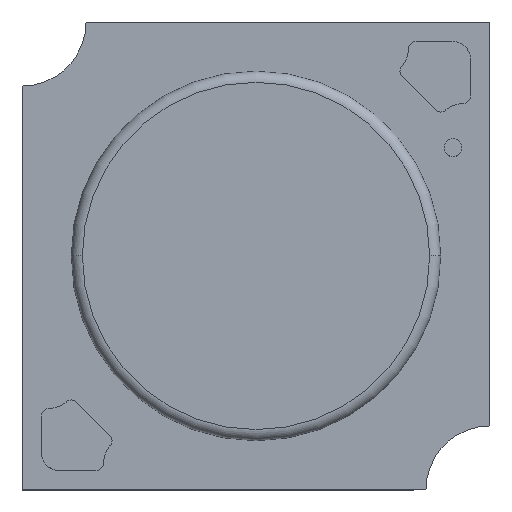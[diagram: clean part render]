
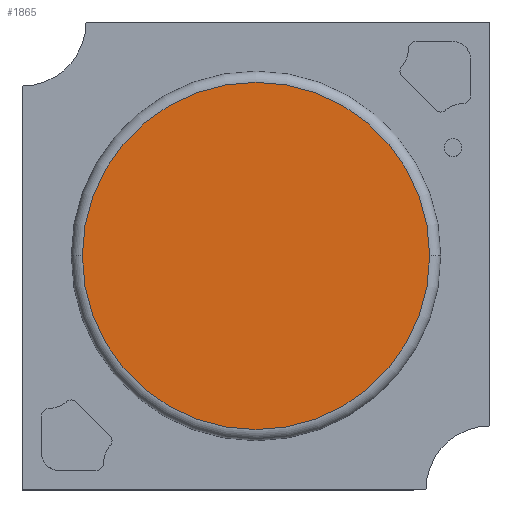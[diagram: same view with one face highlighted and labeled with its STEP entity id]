
A CAD part, top view. The second image highlights one B-rep face of the part: STEP entity #1865.
In plain terms, the highlighted planar face has unit normal (0, 0, 1).
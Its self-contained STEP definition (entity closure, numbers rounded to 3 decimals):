
#794=CARTESIAN_POINT('',(0.,0.,1.4));
#795=DIRECTION('',(0.,0.,-1.));
#796=DIRECTION('',(1.,0.,0.));
#797=AXIS2_PLACEMENT_3D('',#794,#795,#796);
#818=CARTESIAN_POINT('',(0.,0.,1.4));
#819=DIRECTION('',(0.,0.,-1.));
#820=DIRECTION('',(-1.,0.,0.));
#821=AXIS2_PLACEMENT_3D('',#818,#819,#820);
#970=CARTESIAN_POINT('',(7.05,0.,1.4));
#971=CARTESIAN_POINT('',(-7.05,0.,1.4));
#972=VERTEX_POINT('',#970);
#973=VERTEX_POINT('',#971);
#1855=CARTESIAN_POINT('',(0.,0.,1.4));
#1856=DIRECTION('',(0.,0.,-1.));
#1857=DIRECTION('',(-1.,0.,0.));
#1858=AXIS2_PLACEMENT_3D('',#1855,#1856,#1857);
#1859=PLANE('',#1858);
#1860=ORIENTED_EDGE('',*,*,#1838,.T.);
#1862=ORIENTED_EDGE('',*,*,#1861,.T.);
#1863=EDGE_LOOP('',(#1860,#1862));
#1864=FACE_OUTER_BOUND('',#1863,.F.);
#798=CIRCLE('',#797,7.05);
#822=CIRCLE('',#821,7.05);
#1838=EDGE_CURVE('',#972,#973,#798,.T.);
#1861=EDGE_CURVE('',#973,#972,#822,.T.);
#1865=ADVANCED_FACE('',(#1864),#1859,.F.);
